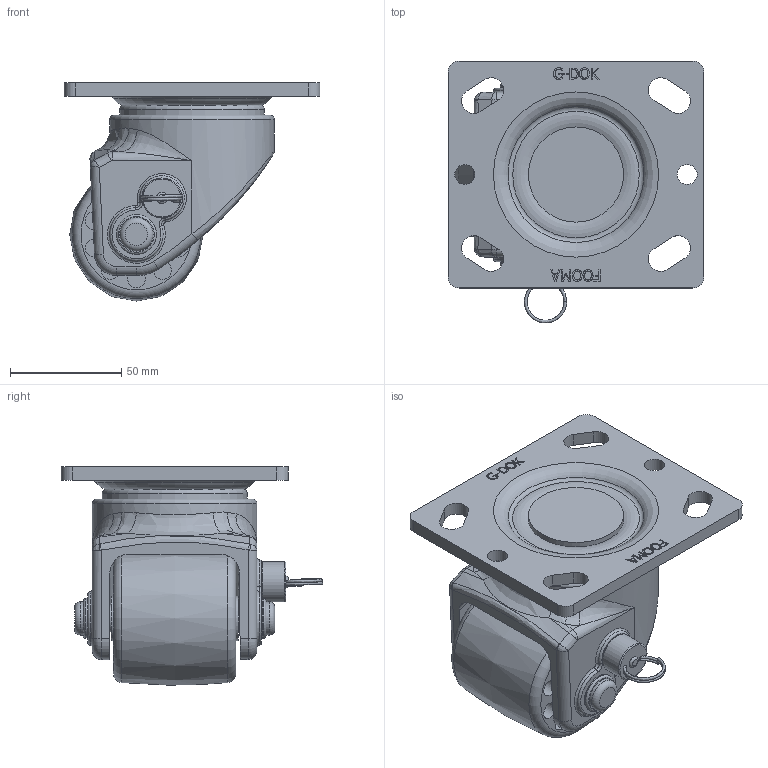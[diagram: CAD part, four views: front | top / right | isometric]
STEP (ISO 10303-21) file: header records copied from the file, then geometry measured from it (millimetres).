
FILE_DESCRIPTION(/* description */ (' '),/* implementation_level */ '2;1');
FILE_NAME(/* name */ 'E:\홈피용도면\홈페이지용3d\GLH-SERIES(PEU,PUS)\GLH-60-BSF-PUS.stp',/* time_stamp */ '2017-01-25T19:14:19+09:00',/* author */ ('Administrator'),/* organization */ (' '),/* preprocessor_version */ 'ST-DEVELOPER v16.5',/* originating_system */ 'Autodesk Inventor 2017',/* authorisation */ ' ');
FILE_SCHEMA (('AUTOMOTIVE_DESIGN { 1 0 10303 214 3 1 1 }'));
Length unit declared in the file: millimetre
Products named in the file (1): GLH-60-BSF-PUS
Bounding box: 115 x 117.6 x 98.12 mm (x, y, z)
Volume: 366353.2 mm3; surface area: 71968.8 mm2
Topology: 1 solids, 2 shells, 477 faces, 1169 edges, 747 vertices
Faces by surface type: plane 173, bspline 160, cylinder 66, torus 34, cone 24, sphere 20
Full cylindrical faces by diameter (mm): 7.8 x1, 8 x20, 9 x2, 11.95 x2, 12.2 x2, 12.676 x1, 13 x2, 15 x2, 18 x3, 20 x2, 42.8 x1, 65.14 x1, 74 x1
Entity records: 24148 total; most frequent: CARTESIAN_POINT 13838, ORIENTED_EDGE 2164, DIRECTION 1890, EDGE_CURVE 1082, AXIS2_PLACEMENT_3D 753, VERTEX_POINT 731, EDGE_LOOP 617, FACE_OUTER_BOUND 477
